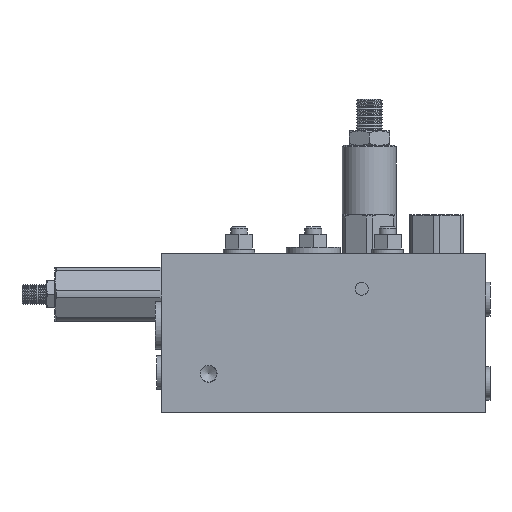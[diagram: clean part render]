
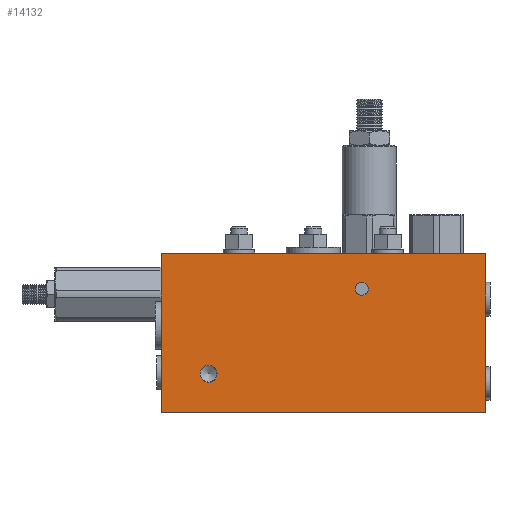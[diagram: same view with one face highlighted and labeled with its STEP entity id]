
A CAD part, front view. The second image highlights one B-rep face of the part: STEP entity #14132.
In plain terms, the highlighted planar face has unit normal (0, -1, 0).
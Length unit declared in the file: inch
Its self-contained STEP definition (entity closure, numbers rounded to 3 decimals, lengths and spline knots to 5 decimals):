
#730=LINE('',#20134,#1547);
#945=LINE('',#21839,#1762);
#946=LINE('',#21841,#1763);
#947=LINE('',#21842,#1764);
#1547=VECTOR('',#16461,6.);
#1762=VECTOR('',#17428,2.94);
#1763=VECTOR('',#17429,6.);
#1764=VECTOR('',#17430,2.94);
#2570=PLANE('',#15262);
#2994=FACE_BOUND('',#4536,.T.);
#2995=FACE_BOUND('',#4537,.T.);
#3552=FACE_OUTER_BOUND('',#4535,.T.);
#4535=EDGE_LOOP('',(#10444,#10445,#10446,#10447));
#4536=EDGE_LOOP('',(#10448));
#4537=EDGE_LOOP('',(#10449));
#5564=CIRCLE('',#15263,0.119);
#5565=CIRCLE('',#15264,0.1565);
#6014=VERTEX_POINT('',#20131);
#6015=VERTEX_POINT('',#20133);
#6441=VERTEX_POINT('',#21838);
#6442=VERTEX_POINT('',#21840);
#6443=VERTEX_POINT('',#21843);
#6444=VERTEX_POINT('',#21845);
#7364=EDGE_CURVE('',#6015,#6014,#730,.T.);
#7958=EDGE_CURVE('',#6014,#6441,#945,.T.);
#7959=EDGE_CURVE('',#6442,#6441,#946,.T.);
#7960=EDGE_CURVE('',#6015,#6442,#947,.T.);
#7961=EDGE_CURVE('',#6443,#6443,#5564,.T.);
#7962=EDGE_CURVE('',#6444,#6444,#5565,.T.);
#10444=ORIENTED_EDGE('',*,*,#7364,.T.);
#10445=ORIENTED_EDGE('',*,*,#7958,.T.);
#10446=ORIENTED_EDGE('',*,*,#7959,.F.);
#10447=ORIENTED_EDGE('',*,*,#7960,.F.);
#10448=ORIENTED_EDGE('',*,*,#7961,.T.);
#10449=ORIENTED_EDGE('',*,*,#7962,.T.);
#14132=ADVANCED_FACE('',(#3552,#2994,#2995),#2570,.T.);
#15262=AXIS2_PLACEMENT_3D('',#21837,#17426,#17427);
#15263=AXIS2_PLACEMENT_3D('',#21844,#17431,#17432);
#15264=AXIS2_PLACEMENT_3D('',#21846,#17433,#17434);
#16461=DIRECTION('',(-1.,0.,0.));
#17426=DIRECTION('center_axis',(0.,-1.,0.));
#17427=DIRECTION('ref_axis',(-1.,0.,0.));
#17428=DIRECTION('',(0.,0.,-1.));
#17429=DIRECTION('',(-1.,0.,0.));
#17430=DIRECTION('',(0.,0.,-1.));
#17431=DIRECTION('center_axis',(0.,1.,0.));
#17432=DIRECTION('ref_axis',(0.,0.,1.));
#17433=DIRECTION('center_axis',(0.,1.,0.));
#17434=DIRECTION('ref_axis',(0.,0.,1.));
#20131=CARTESIAN_POINT('',(0.,-5.,0.));
#20133=CARTESIAN_POINT('',(6.,-5.,0.));
#20134=CARTESIAN_POINT('',(6.,-5.,0.));
#21837=CARTESIAN_POINT('Origin',(6.,-5.,0.));
#21838=CARTESIAN_POINT('',(0.,-5.,-2.94));
#21839=CARTESIAN_POINT('',(0.,-5.,0.));
#21840=CARTESIAN_POINT('',(6.,-5.,-2.94));
#21841=CARTESIAN_POINT('',(6.,-5.,-2.94));
#21842=CARTESIAN_POINT('',(6.,-5.,0.));
#21843=CARTESIAN_POINT('',(3.71,-5.,-0.769));
#21844=CARTESIAN_POINT('Origin',(3.71,-5.,-0.65));
#21845=CARTESIAN_POINT('',(0.875,-5.,-2.3765));
#21846=CARTESIAN_POINT('Origin',(0.875,-5.,-2.22));
